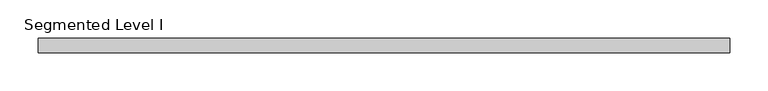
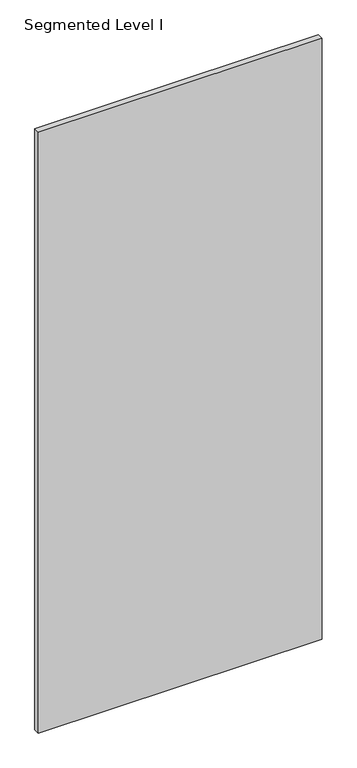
"""IFC4 building model written with IfcOpenShell, lengths in millimetres: proxy geometry, Panel-Fascia-Teknion-Altos-Standard : Segmented Level I."""

from ifc_helpers import new_model, si_unit, frame, origin, place, context, project, spatial, polyline, outline, extrude, source, transform, mapped, element, save


def segmented_level_i_235b6383(model_context):
    return source(origin(), model_context, "Body", "SweptSolid", [
        extrude(outline(polyline([(454.025, 9.525), (454.025, -9.525), (-454.025, -9.525), (-454.025, 9.525), (454.025, 9.525)])), frame((0.0, 0.0, 3.175), z_axis=(0.0, 0.0, 1.0), x_axis=(1.0, 0.0, 0.0)), (0.0, 0.0, 1.0), 2029.968),
    ])


if __name__ == "__main__":
    model = new_model("IFC4")
    model_context = context("Model", 3, world=origin())
    ifc_project = project(units=[si_unit("LENGTHUNIT", "METRE", prefix="MILLI")], contexts=[model_context])
    site = spatial("IfcSite", under=ifc_project)
    building = spatial("IfcBuilding", under=site)
    placement = place(None, origin())
    segmented_level_i_shape = segmented_level_i_235b6383(model_context)
    element("IfcBuildingElementProxy", 1, Name="Panel-Fascia-Teknion-Altos-Standard : Segmented Level I", ObjectType="Panel-Fascia-Teknion-Altos-Standard : Segmented Level I", at=placement, inside=building, context=model_context, shape_type="MappedRepresentation", body=[
        mapped(segmented_level_i_shape, transform((0.0, 0.0, 0.0), x_axis=(1.0, 0.0, 0.0), y_axis=(0.0, 1.0, 0.0), z_axis=(0.0, 0.0, 1.0))),
    ])
    save(model, "model.ifc")
